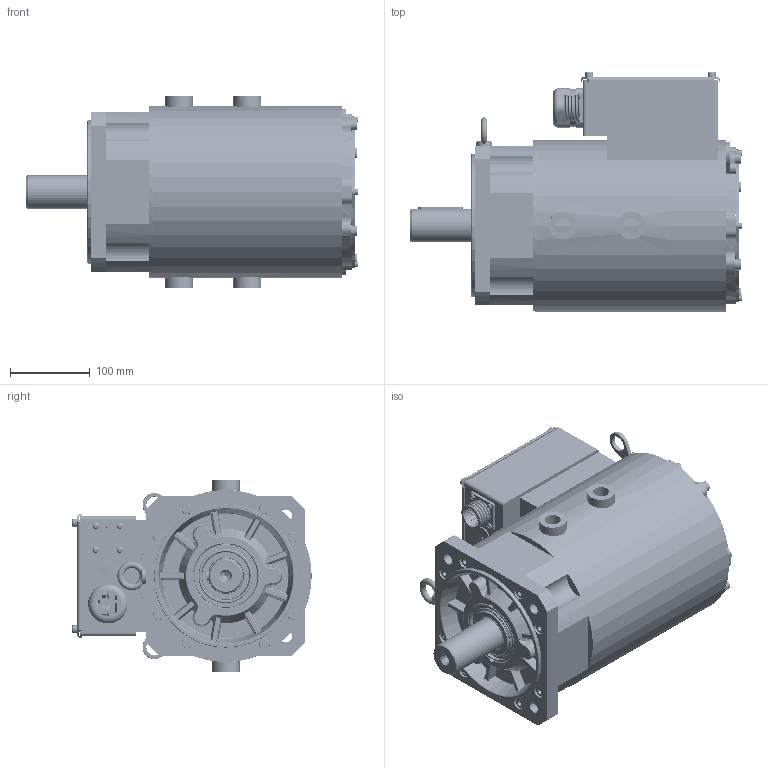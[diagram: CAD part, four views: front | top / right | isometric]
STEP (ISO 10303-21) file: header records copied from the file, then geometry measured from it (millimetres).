
FILE_DESCRIPTION((''),'2;1');
FILE_NAME('11101-02112_SW0003','2026-03-09T14:18:18',('admin'),(''),'CREO PARAMETRIC BY PTC INC, 2019080','CREO PARAMETRIC BY PTC INC, 2019080','');
FILE_SCHEMA(('CONFIG_CONTROL_DESIGN'));
Length unit declared in the file: millimetre
Products named in the file (1): 11101-02112_SW0003
Bounding box: 417 x 300.5 x 240 mm (x, y, z)
Surface area: 1553083 mm2 (no closed solid volume)
Topology: 0 solids, 178 shells, 2209 faces, 9981 edges, 7874 vertices
Faces by surface type: plane 913, cylinder 684, bspline 232, torus 190, cone 155, sphere 35
Entity records: 170850 total; most frequent: CARTESIAN_POINT 92366, DIRECTION 16165, ORIENTED_EDGE 14430, EDGE_CURVE 9963, VERTEX_POINT 7874, AXIS2_PLACEMENT_3D 5710, VECTOR 4745, LINE 4745
